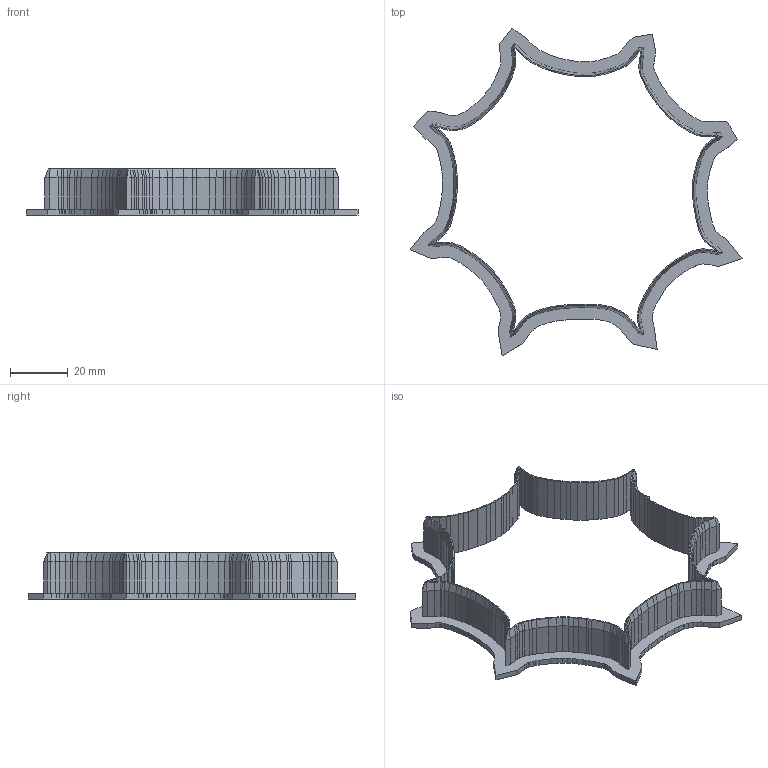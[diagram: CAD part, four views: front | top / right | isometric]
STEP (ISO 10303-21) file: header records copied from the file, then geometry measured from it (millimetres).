
FILE_DESCRIPTION(('Open CASCADE Model'),'2;1');
FILE_NAME('Open CASCADE Shape Model','2026-10-27T22:18:22',('Author'),( 'Open CASCADE'),'Open CASCADE STEP processor 7.9','Open CASCADE 7.9' ,'Unknown');
FILE_SCHEMA(('AUTOMOTIVE_DESIGN { 1 0 10303 214 1 1 1 1 }'));
Products named in the file (1): Open CASCADE STEP translator 7.9 7
Bounding box: 115.41 x 113.95 x 16 mm (x, y, z)
Volume: 10141.5 mm3; surface area: 16175.2 mm2
Topology: 1 solids, 1 shells, 773 faces, 2115 edges, 1345 vertices
Faces by surface type: plane 578, bspline 195
Entity records: 50031 total; most frequent: CARTESIAN_POINT 10216, DIRECTION 6336, LINE 5178, VECTOR 5178, ORIENTED_EDGE 4230, PCURVE 4230, DEFINITIONAL_REPRESENTATION 4230, EDGE_CURVE 2115
